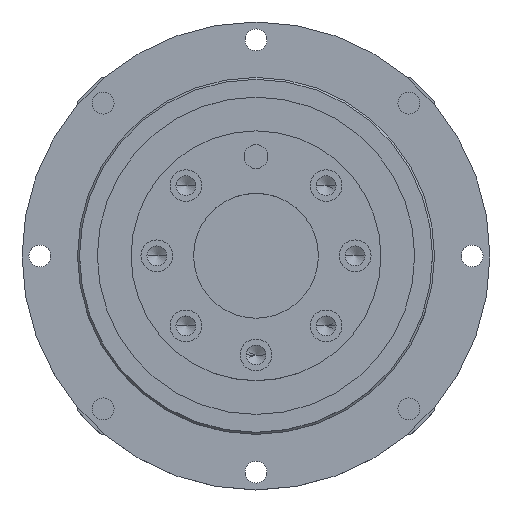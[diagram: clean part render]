
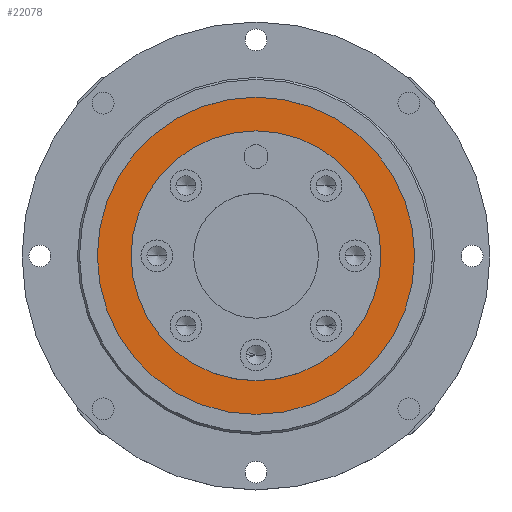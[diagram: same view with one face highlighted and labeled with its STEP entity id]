
A CAD part, top view. The second image highlights one B-rep face of the part: STEP entity #22078.
In plain terms, the highlighted planar face has unit normal (0, 0, 1).
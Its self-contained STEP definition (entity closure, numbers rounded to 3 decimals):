
#1970 = AXIS2_PLACEMENT_3D ( 'NONE', #9645, #9606, #9546 ) ;
#3236 = AXIS2_PLACEMENT_3D ( 'NONE', #41678, #19737, #45237 ) ;
#5007 = CARTESIAN_POINT ( 'NONE',  ( 0., 0., -1. ) ) ;
#5128 = DIRECTION ( 'NONE',  ( 0., 0., 1. ) ) ;
#6603 = VERTEX_POINT ( 'NONE', #30431 ) ;
#8456 = EDGE_CURVE ( 'NONE', #8771, #6603, #14985, .T. ) ;
#8771 = VERTEX_POINT ( 'NONE', #22499 ) ;
#8779 = DIRECTION ( 'NONE',  ( 1., 0., 0. ) ) ;
#9546 = DIRECTION ( 'NONE',  ( 1., 0., 0. ) ) ;
#9606 = DIRECTION ( 'NONE',  ( 0., 0., 1. ) ) ;
#9645 = CARTESIAN_POINT ( 'NONE',  ( 0., 0., -1. ) ) ;
#9799 = FACE_OUTER_BOUND ( 'NONE', #43293, .T. ) ;
#11389 = FACE_BOUND ( 'NONE', #39317, .T. ) ;
#12094 = CIRCLE ( 'NONE', #38375, 31. ) ;
#12722 = DIRECTION ( 'NONE',  ( -1., 0., 0. ) ) ;
#14985 = CIRCLE ( 'NONE', #1970, 40. ) ;
#19079 = ORIENTED_EDGE ( 'NONE', *, *, #41890, .T. ) ;
#19737 = DIRECTION ( 'NONE',  ( 0., 0., 1. ) ) ;
#20108 = CARTESIAN_POINT ( 'NONE',  ( 0., 40., -1. ) ) ;
#22078 = ADVANCED_FACE ( 'NONE', ( #11389, #9799 ), #31181, .F. ) ;
#22303 = CIRCLE ( 'NONE', #3236, 31. ) ;
#22499 = CARTESIAN_POINT ( 'NONE',  ( 40., 0., -1. ) ) ;
#23017 = VERTEX_POINT ( 'NONE', #35117 ) ;
#27404 = CARTESIAN_POINT ( 'NONE',  ( 0., 0., -1. ) ) ;
#29868 = EDGE_CURVE ( 'NONE', #23017, #46160, #22303, .T. ) ;
#30431 = CARTESIAN_POINT ( 'NONE',  ( -40., 0., -1. ) ) ;
#30943 = DIRECTION ( 'NONE',  ( 0., 0., 1. ) ) ;
#31077 = DIRECTION ( 'NONE',  ( -1., 0., 0. ) ) ;
#31181 = PLANE ( 'NONE',  #42759 ) ;
#31193 = AXIS2_PLACEMENT_3D ( 'NONE', #5007, #30943, #8779 ) ;
#34100 = EDGE_CURVE ( 'NONE', #46160, #23017, #12094, .T. ) ;
#34122 = CARTESIAN_POINT ( 'NONE',  ( -31., 0., -1. ) ) ;
#34871 = DIRECTION ( 'NONE',  ( 0., 0., -1. ) ) ;
#35117 = CARTESIAN_POINT ( 'NONE',  ( 31., 0., -1. ) ) ;
#37240 = ORIENTED_EDGE ( 'NONE', *, *, #29868, .F. ) ;
#37307 = CIRCLE ( 'NONE', #31193, 40. ) ;
#38375 = AXIS2_PLACEMENT_3D ( 'NONE', #27404, #5128, #31077 ) ;
#39317 = EDGE_LOOP ( 'NONE', ( #40471, #37240 ) ) ;
#40471 = ORIENTED_EDGE ( 'NONE', *, *, #34100, .F. ) ;
#41678 = CARTESIAN_POINT ( 'NONE',  ( 0., 0., -1. ) ) ;
#41890 = EDGE_CURVE ( 'NONE', #6603, #8771, #37307, .T. ) ;
#42759 = AXIS2_PLACEMENT_3D ( 'NONE', #20108, #34871, #12722 ) ;
#43293 = EDGE_LOOP ( 'NONE', ( #44021, #19079 ) ) ;
#44021 = ORIENTED_EDGE ( 'NONE', *, *, #8456, .T. ) ;
#45237 = DIRECTION ( 'NONE',  ( -1., 0., 0. ) ) ;
#46160 = VERTEX_POINT ( 'NONE', #34122 ) ;
